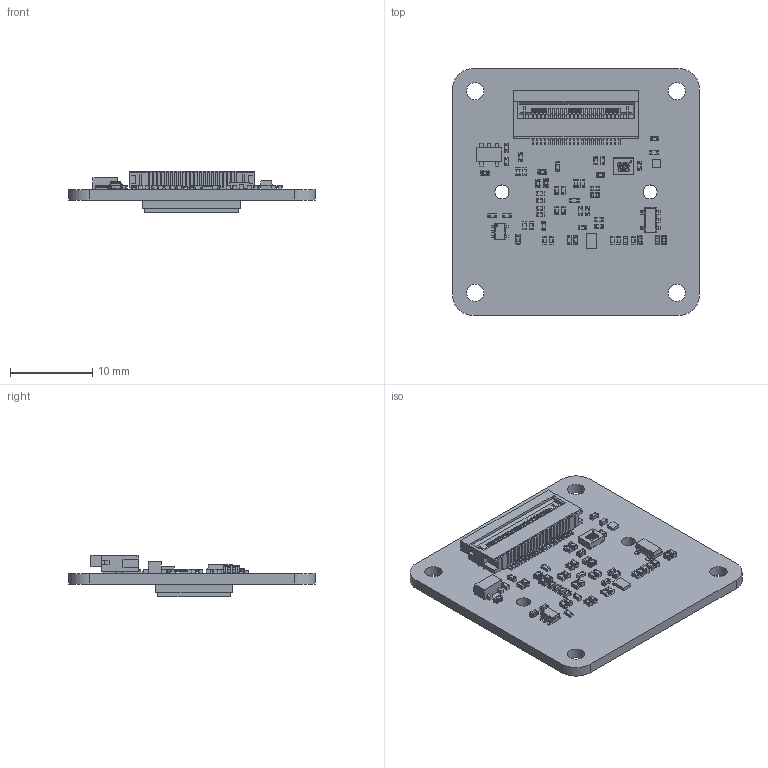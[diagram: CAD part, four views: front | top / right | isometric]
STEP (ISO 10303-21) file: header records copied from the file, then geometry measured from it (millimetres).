
FILE_DESCRIPTION(('Open CASCADE Model'),'2;1');
FILE_NAME('Open CASCADE Shape Model','2023-09-19T10:06:27',('Author'),( 'Open CASCADE'),'Open CASCADE STEP processor 6.8','Open CASCADE 6.8' ,'Unknown');
FILE_SCHEMA(('AUTOMOTIVE_DESIGN { 1 0 10303 214 1 1 1 1 }'));
Length unit declared in the file: millimetre
Products named in the file (95): PCB; Board; Open CASCADE STEP translator 6.8 1.1.1; C51; User_Library-C0402-1; U6; 8697877360; Extruded; C45; R6; User_Library-R0402-2; R9; R8; C29; J1; WE_687122149022; 6871xx149022_Pin; 6871xx149022_Patte; 6871xx149022_Patte2; 687122149022; 687122149022_Actuator; C3; Y1; User_Library-OSC_2520; User_Library-Oscillator2520-4pol-1_Pad002; User_Library-Oscillator2520-4pol-1_Pad001; User_Library-Oscillator2520-4pol-1_Cut004; User_Library-Oscillator2520-4pol-1_Zylinder; User_Library-Oscillator2520-4pol-1_Cut; C1; C36; 70610838; U1; 6813552880; R1; R2; C2; U3; CircuitWorks-SOT-23-5; C11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
Assembly tree (226 placements, depth 4):
  PCB
    Board
      Open CASCADE STEP translator 6.8 1.1.1
    C51
      User_Library-C0402-1
    U6
      8697877360
        Extruded
    C45
      User_Library-C0402-1
    R6
      User_Library-R0402-2
    R9
      User_Library-R0402-2
    R8
      User_Library-R0402-2
    C29
      User_Library-C0402-1
    J1
      WE_687122149022
        6871xx149022_Pin  x22
        6871xx149022_Patte
        6871xx149022_Patte2
        687122149022
        687122149022_Actuator
    C3
      User_Library-C0402-1
    Y1
      User_Library-OSC_2520
        User_Library-Oscillator2520-4pol-1_Pad002
        User_Library-Oscillator2520-4pol-1_Pad001
        User_Library-Oscillator2520-4pol-1_Cut004
        User_Library-Oscillator2520-4pol-1_Zylinder
        User_Library-Oscillator2520-4pol-1_Cut
    C1
      User_Library-C0402-1
    C36
      70610838
      70610838
      70610838
      70610838
      70610838
      70610838
    U1
      6813552880
        Extruded
    R1
      User_Library-R0402-2
    R2
      User_Library-R0402-2
    C2
      User_Library-C0402-1
    U3
      CircuitWorks-SOT-23-5
    C11
      70610838
      70610838
      70610838
      70610838
      70610838
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Bounding box: 30.01 x 30 x 5.09 mm (x, y, z)
Volume: 1425.9 mm3; surface area: 3625.1 mm2
Topology: 168 solids, 168 shells, 6870 faces, 16969 edges, 9785 vertices
Faces by surface type: plane 2955, cylinder 2038, sphere 896, bspline 830, torus 151
Full cylindrical faces by diameter (mm): 1.7 x2, 2.1 x4
Entity records: 56301 total; most frequent: CARTESIAN_POINT 11816, ORIENTED_EDGE 7700, DIRECTION 6275, EDGE_CURVE 3850, LINE 2689, VECTOR 2689, VERTEX_POINT 2469, AXIS2_PLACEMENT_3D 1793
